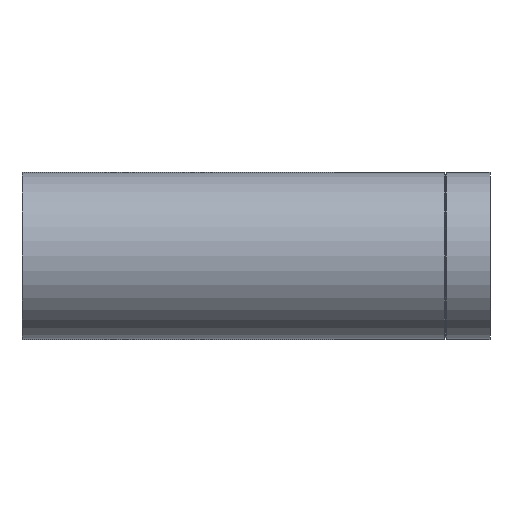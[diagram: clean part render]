
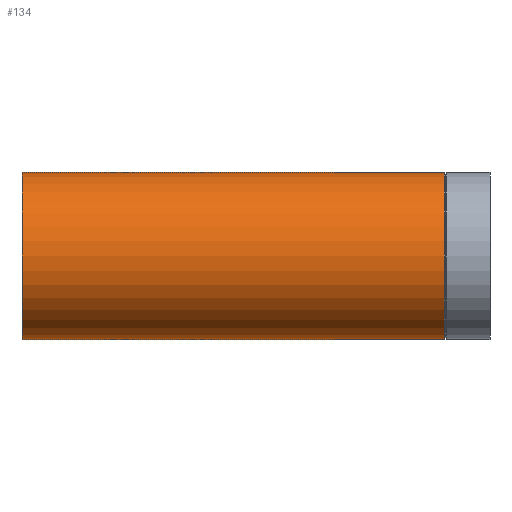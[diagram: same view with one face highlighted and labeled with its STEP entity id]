
A CAD part, left-side view. The second image highlights one B-rep face of the part: STEP entity #134.
In plain terms, the highlighted cylindrical face has radius 37.5 mm (diameter 75 mm), a full revolution.
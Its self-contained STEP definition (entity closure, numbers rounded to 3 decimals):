
#16=ELLIPSE($,#151,40.59,37.5);
#17=ELLIPSE($,#152,97.992,37.5);
#20=CYLINDRICAL_SURFACE($,#150,37.5);
#27=FACE_BOUND($,#51,.T.);
#28=FACE_BOUND($,#52,.T.);
#29=FACE_BOUND($,#53,.T.);
#51=EDGE_LOOP($,(#108,#109));
#52=EDGE_LOOP($,(#110));
#53=EDGE_LOOP($,(#111));
#71=CIRCLE($,#149,37.5);
#72=CIRCLE($,#153,37.5);
#80=VERTEX_POINT($,#223);
#81=VERTEX_POINT($,#226);
#82=VERTEX_POINT($,#227);
#83=VERTEX_POINT($,#230);
#93=EDGE_CURVE($,#80,#80,#71,.T.);
#94=EDGE_CURVE($,#81,#82,#16,.T.);
#95=EDGE_CURVE($,#82,#81,#17,.T.);
#96=EDGE_CURVE($,#83,#83,#72,.T.);
#108=ORIENTED_EDGE($,*,*,#94,.T.);
#109=ORIENTED_EDGE($,*,*,#95,.T.);
#110=ORIENTED_EDGE($,*,*,#96,.T.);
#111=ORIENTED_EDGE($,*,*,#93,.T.);
#134=ADVANCED_FACE($,(#27,#28,#29),#20,.T.);
#149=AXIS2_PLACEMENT_3D($,#224,#178,#179);
#150=AXIS2_PLACEMENT_3D($,#225,#180,#181);
#151=AXIS2_PLACEMENT_3D($,#228,#182,#183);
#152=AXIS2_PLACEMENT_3D($,#229,#184,#185);
#153=AXIS2_PLACEMENT_3D($,#231,#186,#187);
#178=DIRECTION('center_axis',(0.,1.,0.));
#179=DIRECTION('ref_axis',(1.,0.,0.));
#180=DIRECTION('center_axis',(0.,1.,0.));
#181=DIRECTION('ref_axis',(1.,0.,0.));
#182=DIRECTION('center_axis',(-0.383,-0.924,0.));
#183=DIRECTION('ref_axis',(0.924,-0.383,0.));
#184=DIRECTION('center_axis',(-0.924,0.383,0.));
#185=DIRECTION('ref_axis',(-0.383,-0.924,0.));
#186=DIRECTION('center_axis',(0.,-1.,0.));
#187=DIRECTION('ref_axis',(1.,0.,0.));
#223=CARTESIAN_POINT('',(37.5,20.433,0.));
#224=CARTESIAN_POINT('Origin',(0.,20.433,0.));
#225=CARTESIAN_POINT('Origin',(0.,0.,0.));
#226=CARTESIAN_POINT('',(0.,70.,-37.5));
#227=CARTESIAN_POINT('',(0.,70.,37.5));
#228=CARTESIAN_POINT('Origin',(0.,70.,0.));
#229=CARTESIAN_POINT('Origin',(0.,70.,0.));
#230=CARTESIAN_POINT('',(-37.5,210.,0.));
#231=CARTESIAN_POINT('Origin',(0.,210.,0.));
